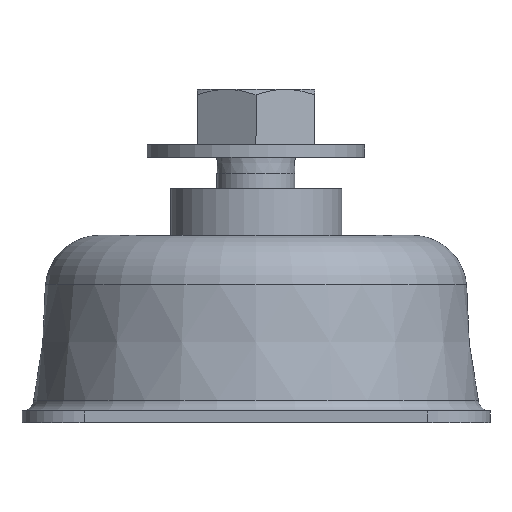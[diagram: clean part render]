
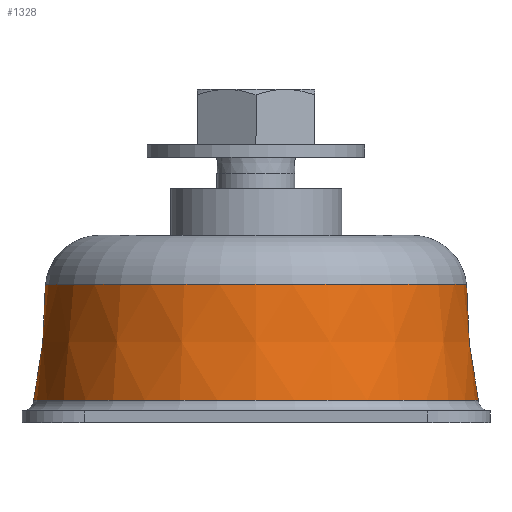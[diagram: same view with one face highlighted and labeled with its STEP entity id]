
A CAD part, left-side view. The second image highlights one B-rep face of the part: STEP entity #1328.
In plain terms, the highlighted conical face has half-angle 5.794 degrees and reference radius 44.059 mm.
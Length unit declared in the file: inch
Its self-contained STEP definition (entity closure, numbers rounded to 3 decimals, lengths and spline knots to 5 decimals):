
#111=CONICAL_SURFACE('',#1482,1.73461,5.794);
#208=FACE_BOUND('',#425,.T.);
#284=FACE_OUTER_BOUND('',#424,.T.);
#424=EDGE_LOOP('',(#993));
#425=EDGE_LOOP('',(#994));
#557=CIRCLE('',#1480,1.6875);
#559=CIRCLE('',#1483,1.78173);
#658=VERTEX_POINT('',#2165);
#660=VERTEX_POINT('',#2170);
#783=EDGE_CURVE('',#658,#658,#557,.T.);
#785=EDGE_CURVE('',#660,#660,#559,.T.);
#993=ORIENTED_EDGE('',*,*,#785,.F.);
#994=ORIENTED_EDGE('',*,*,#783,.T.);
#1328=ADVANCED_FACE('',(#284,#208),#111,.T.);
#1480=AXIS2_PLACEMENT_3D('',#2166,#1784,#1785);
#1482=AXIS2_PLACEMENT_3D('',#2169,#1788,#1789);
#1483=AXIS2_PLACEMENT_3D('',#2171,#1790,#1791);
#1784=DIRECTION('center_axis',(0.,0.,
-1.));
#1785=DIRECTION('ref_axis',(1.,0.,0.));
#1788=DIRECTION('center_axis',(0.,0.,
-1.));
#1789=DIRECTION('ref_axis',(1.,0.,0.));
#1790=DIRECTION('center_axis',(0.,0.,
-1.));
#1791=DIRECTION('ref_axis',(1.,0.,0.));
#2165=CARTESIAN_POINT('',(1.6875,0.,1.10667));
#2166=CARTESIAN_POINT('Origin',(0.,0.,
1.10667));
#2169=CARTESIAN_POINT('Origin',(0.,0.,
0.64235));
#2170=CARTESIAN_POINT('',(1.78173,0.,0.17804));
#2171=CARTESIAN_POINT('Origin',(0.,0.,
0.17804));
